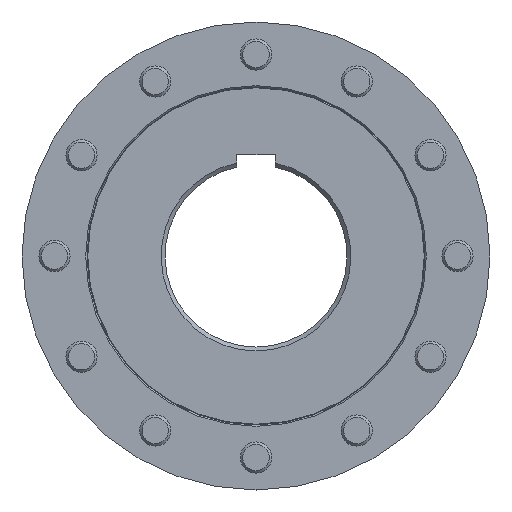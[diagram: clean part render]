
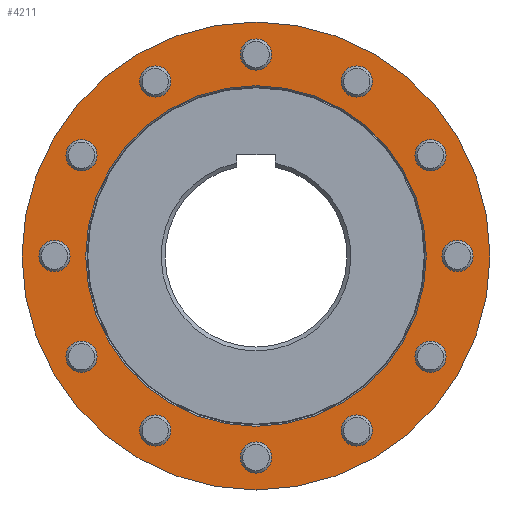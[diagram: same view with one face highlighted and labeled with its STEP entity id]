
A CAD part, left-side view. The second image highlights one B-rep face of the part: STEP entity #4211.
In plain terms, the highlighted planar face has unit normal (-1, 0, 0).
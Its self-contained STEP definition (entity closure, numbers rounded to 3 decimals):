
#542=PLANE('',#4533);
#687=FACE_BOUND('',#1260,.T.);
#688=FACE_BOUND('',#1261,.T.);
#689=FACE_BOUND('',#1262,.T.);
#690=FACE_BOUND('',#1263,.T.);
#691=FACE_BOUND('',#1264,.T.);
#692=FACE_BOUND('',#1265,.T.);
#693=FACE_BOUND('',#1266,.T.);
#694=FACE_BOUND('',#1267,.T.);
#695=FACE_BOUND('',#1268,.T.);
#696=FACE_BOUND('',#1269,.T.);
#697=FACE_BOUND('',#1270,.T.);
#698=FACE_BOUND('',#1271,.T.);
#699=FACE_BOUND('',#1272,.T.);
#948=FACE_OUTER_BOUND('',#1259,.T.);
#1259=EDGE_LOOP('',(#2934));
#1260=EDGE_LOOP('',(#2935));
#1261=EDGE_LOOP('',(#2936));
#1262=EDGE_LOOP('',(#2937));
#1263=EDGE_LOOP('',(#2938));
#1264=EDGE_LOOP('',(#2939));
#1265=EDGE_LOOP('',(#2940));
#1266=EDGE_LOOP('',(#2941));
#1267=EDGE_LOOP('',(#2942));
#1268=EDGE_LOOP('',(#2943));
#1269=EDGE_LOOP('',(#2944));
#1270=EDGE_LOOP('',(#2945));
#1271=EDGE_LOOP('',(#2946));
#1272=EDGE_LOOP('',(#2947));
#1794=CIRCLE('',#4534,180.);
#1795=CIRCLE('',#4535,12.);
#1796=CIRCLE('',#4536,12.);
#1797=CIRCLE('',#4537,12.);
#1798=CIRCLE('',#4538,12.);
#1799=CIRCLE('',#4539,12.);
#1800=CIRCLE('',#4540,12.);
#1801=CIRCLE('',#4541,12.);
#1802=CIRCLE('',#4542,12.);
#1803=CIRCLE('',#4543,12.);
#1804=CIRCLE('',#4544,12.);
#1805=CIRCLE('',#4545,12.);
#1806=CIRCLE('',#4546,12.);
#1807=CIRCLE('',#4547,131.);
#2028=VERTEX_POINT('',#6396);
#2029=VERTEX_POINT('',#6398);
#2030=VERTEX_POINT('',#6400);
#2031=VERTEX_POINT('',#6402);
#2032=VERTEX_POINT('',#6404);
#2033=VERTEX_POINT('',#6406);
#2034=VERTEX_POINT('',#6408);
#2035=VERTEX_POINT('',#6410);
#2036=VERTEX_POINT('',#6412);
#2037=VERTEX_POINT('',#6414);
#2038=VERTEX_POINT('',#6416);
#2039=VERTEX_POINT('',#6418);
#2040=VERTEX_POINT('',#6420);
#2041=VERTEX_POINT('',#6422);
#2428=EDGE_CURVE('',#2028,#2028,#1794,.T.);
#2429=EDGE_CURVE('',#2029,#2029,#1795,.T.);
#2430=EDGE_CURVE('',#2030,#2030,#1796,.T.);
#2431=EDGE_CURVE('',#2031,#2031,#1797,.T.);
#2432=EDGE_CURVE('',#2032,#2032,#1798,.T.);
#2433=EDGE_CURVE('',#2033,#2033,#1799,.T.);
#2434=EDGE_CURVE('',#2034,#2034,#1800,.T.);
#2435=EDGE_CURVE('',#2035,#2035,#1801,.T.);
#2436=EDGE_CURVE('',#2036,#2036,#1802,.T.);
#2437=EDGE_CURVE('',#2037,#2037,#1803,.T.);
#2438=EDGE_CURVE('',#2038,#2038,#1804,.T.);
#2439=EDGE_CURVE('',#2039,#2039,#1805,.T.);
#2440=EDGE_CURVE('',#2040,#2040,#1806,.T.);
#2441=EDGE_CURVE('',#2041,#2041,#1807,.T.);
#2934=ORIENTED_EDGE('',*,*,#2428,.F.);
#2935=ORIENTED_EDGE('',*,*,#2429,.F.);
#2936=ORIENTED_EDGE('',*,*,#2430,.F.);
#2937=ORIENTED_EDGE('',*,*,#2431,.F.);
#2938=ORIENTED_EDGE('',*,*,#2432,.F.);
#2939=ORIENTED_EDGE('',*,*,#2433,.F.);
#2940=ORIENTED_EDGE('',*,*,#2434,.F.);
#2941=ORIENTED_EDGE('',*,*,#2435,.F.);
#2942=ORIENTED_EDGE('',*,*,#2436,.F.);
#2943=ORIENTED_EDGE('',*,*,#2437,.F.);
#2944=ORIENTED_EDGE('',*,*,#2438,.F.);
#2945=ORIENTED_EDGE('',*,*,#2439,.F.);
#2946=ORIENTED_EDGE('',*,*,#2440,.F.);
#2947=ORIENTED_EDGE('',*,*,#2441,.F.);
#4211=ADVANCED_FACE('',(#948,#687,#688,#689,#690,#691,#692,#693,#694,#695,
#696,#697,#698,#699),#542,.T.);
#4533=AXIS2_PLACEMENT_3D('',#6395,#5117,#5118);
#4534=AXIS2_PLACEMENT_3D('',#6397,#5119,#5120);
#4535=AXIS2_PLACEMENT_3D('',#6399,#5121,#5122);
#4536=AXIS2_PLACEMENT_3D('',#6401,#5123,#5124);
#4537=AXIS2_PLACEMENT_3D('',#6403,#5125,#5126);
#4538=AXIS2_PLACEMENT_3D('',#6405,#5127,#5128);
#4539=AXIS2_PLACEMENT_3D('',#6407,#5129,#5130);
#4540=AXIS2_PLACEMENT_3D('',#6409,#5131,#5132);
#4541=AXIS2_PLACEMENT_3D('',#6411,#5133,#5134);
#4542=AXIS2_PLACEMENT_3D('',#6413,#5135,#5136);
#4543=AXIS2_PLACEMENT_3D('',#6415,#5137,#5138);
#4544=AXIS2_PLACEMENT_3D('',#6417,#5139,#5140);
#4545=AXIS2_PLACEMENT_3D('',#6419,#5141,#5142);
#4546=AXIS2_PLACEMENT_3D('',#6421,#5143,#5144);
#4547=AXIS2_PLACEMENT_3D('',#6423,#5145,#5146);
#5117=DIRECTION('center_axis',(-1.,0.,0.));
#5118=DIRECTION('ref_axis',(0.,-1.,0.));
#5119=DIRECTION('center_axis',(1.,0.,0.));
#5120=DIRECTION('ref_axis',(0.,-1.,0.));
#5121=DIRECTION('center_axis',(-1.,0.,0.));
#5122=DIRECTION('ref_axis',(0.,1.,0.));
#5123=DIRECTION('center_axis',(-1.,0.,0.));
#5124=DIRECTION('ref_axis',(0.,0.866,0.5));
#5125=DIRECTION('center_axis',(-1.,0.,0.));
#5126=DIRECTION('ref_axis',(0.,0.5,0.866));
#5127=DIRECTION('center_axis',(-1.,0.,0.));
#5128=DIRECTION('ref_axis',(0.,0.,1.));
#5129=DIRECTION('center_axis',(-1.,0.,0.));
#5130=DIRECTION('ref_axis',(0.,-0.5,0.866));
#5131=DIRECTION('center_axis',(-1.,0.,0.));
#5132=DIRECTION('ref_axis',(0.,-0.866,0.5));
#5133=DIRECTION('center_axis',(-1.,0.,0.));
#5134=DIRECTION('ref_axis',(0.,-1.,0.));
#5135=DIRECTION('center_axis',(-1.,0.,0.));
#5136=DIRECTION('ref_axis',(0.,-0.866,-0.5));
#5137=DIRECTION('center_axis',(-1.,0.,0.));
#5138=DIRECTION('ref_axis',(0.,-0.5,-0.866));
#5139=DIRECTION('center_axis',(-1.,0.,0.));
#5140=DIRECTION('ref_axis',(0.,0.,
-1.));
#5141=DIRECTION('center_axis',(-1.,0.,0.));
#5142=DIRECTION('ref_axis',(0.,0.5,-0.866));
#5143=DIRECTION('center_axis',(-1.,0.,0.));
#5144=DIRECTION('ref_axis',(0.,0.866,-0.5));
#5145=DIRECTION('center_axis',(-1.,0.,0.));
#5146=DIRECTION('ref_axis',(0.,-1.,0.));
#6395=CARTESIAN_POINT('Origin',(-149.15,0.,0.));
#6396=CARTESIAN_POINT('',(-149.15,180.,0.));
#6397=CARTESIAN_POINT('Origin',(-149.15,0.,0.));
#6398=CARTESIAN_POINT('',(-149.15,-12.,155.));
#6399=CARTESIAN_POINT('Origin',(-149.15,0.,155.));
#6400=CARTESIAN_POINT('',(-149.15,-87.892,128.234));
#6401=CARTESIAN_POINT('Origin',(-149.15,-77.5,134.234));
#6402=CARTESIAN_POINT('',(-149.15,-140.234,67.108));
#6403=CARTESIAN_POINT('Origin',(-149.15,-134.234,77.5));
#6404=CARTESIAN_POINT('',(-149.15,-155.,-12.));
#6405=CARTESIAN_POINT('Origin',(-149.15,-155.,0.));
#6406=CARTESIAN_POINT('',(-149.15,-128.234,-87.892));
#6407=CARTESIAN_POINT('Origin',(-149.15,-134.234,-77.5));
#6408=CARTESIAN_POINT('',(-149.15,-67.108,-140.234));
#6409=CARTESIAN_POINT('Origin',(-149.15,-77.5,-134.234));
#6410=CARTESIAN_POINT('',(-149.15,12.,-155.));
#6411=CARTESIAN_POINT('Origin',(-149.15,0.,-155.));
#6412=CARTESIAN_POINT('',(-149.15,87.892,-128.234));
#6413=CARTESIAN_POINT('Origin',(-149.15,77.5,-134.234));
#6414=CARTESIAN_POINT('',(-149.15,140.234,-67.108));
#6415=CARTESIAN_POINT('Origin',(-149.15,134.234,-77.5));
#6416=CARTESIAN_POINT('',(-149.15,155.,12.));
#6417=CARTESIAN_POINT('Origin',(-149.15,155.,0.));
#6418=CARTESIAN_POINT('',(-149.15,128.234,87.892));
#6419=CARTESIAN_POINT('Origin',(-149.15,134.234,77.5));
#6420=CARTESIAN_POINT('',(-149.15,67.108,140.234));
#6421=CARTESIAN_POINT('Origin',(-149.15,77.5,134.234));
#6422=CARTESIAN_POINT('',(-149.15,131.,0.));
#6423=CARTESIAN_POINT('Origin',(-149.15,0.,0.));
